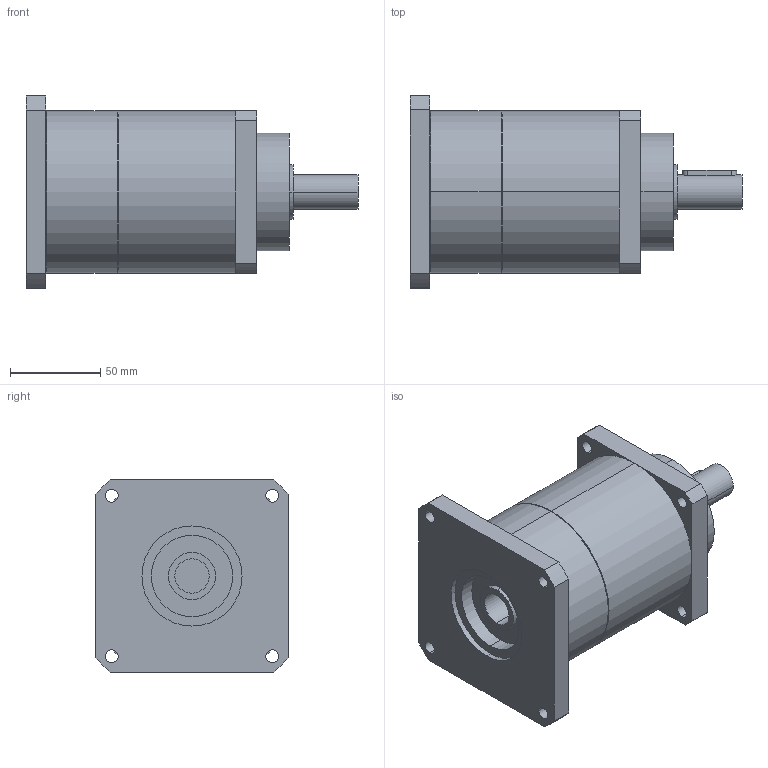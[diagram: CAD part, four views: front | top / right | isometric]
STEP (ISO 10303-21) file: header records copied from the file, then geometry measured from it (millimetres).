
FILE_DESCRIPTION(('CoCreate Modeling STEP Export'),'2;1');
FILE_NAME('GPT90_ig-9-12-16-20-25-28-35-40-50-70-100_19_B5T_19_P02.stp','2015-02-04T11:32:48',(''),(''),'CoCreate Modeling STEP processor for AP214 (Solid Model)','CoCreate Modeling 16.00C 25-Feb-2009 (C) Parametric Technology GmbH','');
FILE_SCHEMA(('AUTOMOTIVE_DESIGN { 1 0 10303 214 1 1 1 1 }'));
Length unit declared in the file: millimetre
Products named in the file (2): GPT90_ig-9-12-16-20-25-28-35-40-50-70-100_19_B5T_19_P02
Assembly tree (1 placements, depth 2):
  GPT90_ig-9-12-16-20-25-28-35-40-50-70-100_19_B5T_19_P02
    GPT90_ig-9-12-16-20-25-28-35-40-50-70-100_19_B5T_19_P02
Bounding box: 184 x 106.5 x 106.5 mm (x, y, z)
Volume: 927451.1 mm3; surface area: 76464.1 mm2
Topology: 1 solids, 1 shells, 77 faces, 206 edges, 141 vertices
Faces by surface type: cylinder 46, plane 27, cone 4
Entity records: 2596 total; most frequent: CARTESIAN_POINT 742, ORIENTED_EDGE 412, DIRECTION 324, EDGE_CURVE 206, VERTEX_POINT 141, AXIS2_PLACEMENT_3D 120, EDGE_LOOP 103, VECTOR 84
